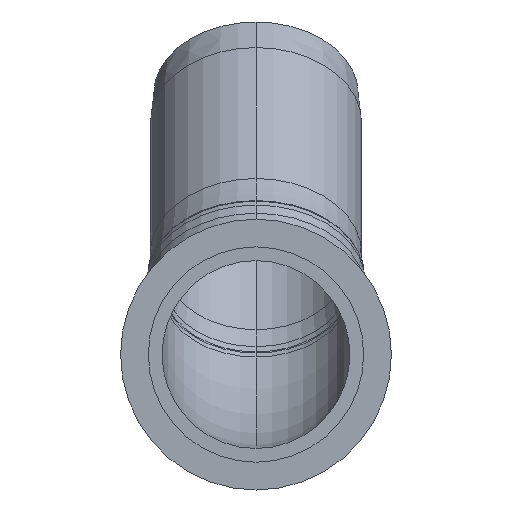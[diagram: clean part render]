
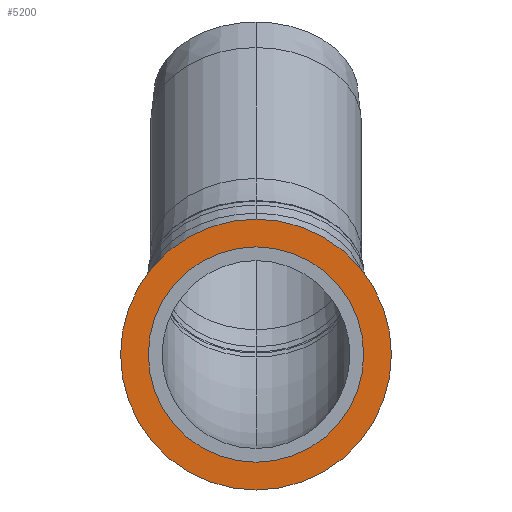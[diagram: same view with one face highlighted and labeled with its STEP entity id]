
A CAD part, front view. The second image highlights one B-rep face of the part: STEP entity #5200.
In plain terms, the highlighted planar face has unit normal (0, -1, 0) as drawn and (-1, 0, 0) by its records, which use the part's own axes.
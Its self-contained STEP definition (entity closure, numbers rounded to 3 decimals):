
#3690=CARTESIAN_POINT('',(47.121,95.829,
0.));
#3700=VERTEX_POINT('',#3690);
#3780=CARTESIAN_POINT('',(47.121,33.829,0.));
#3790=VERTEX_POINT('',#3780);
#3820=CARTESIAN_POINT('',(47.121,64.829,0.));
#3830=DIRECTION('',(1.,0.,0.));
#3840=DIRECTION('',(0.,-1.,0.));
#3850=AXIS2_PLACEMENT_3D('',#3820,#3830,#3840);
#3860=CIRCLE('',#3850,31.);
#3870=EDGE_CURVE('',#3700,#3790,#3860,.T.);
#4590=CARTESIAN_POINT('',(47.121,40.179,0.))
;
#4600=VERTEX_POINT('',#4590);
#4630=CARTESIAN_POINT('',(47.121,64.829,0.));
#4640=DIRECTION('',(1.,0.,0.));
#4650=DIRECTION('',(0.,1.,0.));
#4660=AXIS2_PLACEMENT_3D('',#4630,#4640,#4650);
#4670=CIRCLE('',#4660,24.65);
#4680=CARTESIAN_POINT('',(47.121,89.479,0.)
);
#4690=VERTEX_POINT('',#4680);
#4700=EDGE_CURVE('',#4600,#4690,#4670,.T.);
#5050=CARTESIAN_POINT('',(47.121,94.129,0.)
);
#5060=DIRECTION('',(1.,-0.,0.));
#5070=DIRECTION('',(0.,1.,0.));
#5080=AXIS2_PLACEMENT_3D('',#5050,#5060,#5070);
#5090=PLANE('',#5080);
#5100=EDGE_CURVE('',#4690,#4600,#4670,.T.);
#5110=ORIENTED_EDGE('',*,*,#5100,.T.);
#5120=ORIENTED_EDGE('',*,*,#4700,.T.);
#5130=EDGE_LOOP('',(#5120,#5110));
#5140=FACE_BOUND('',#5130,.T.);
#5150=EDGE_CURVE('',#3790,#3700,#3860,.T.);
#5160=ORIENTED_EDGE('',*,*,#5150,.F.);
#5170=ORIENTED_EDGE('',*,*,#3870,.F.);
#5180=EDGE_LOOP('',(#5170,#5160));
#5190=FACE_OUTER_BOUND('',#5180,.T.);
#5200=ADVANCED_FACE('',(#5140,#5190),#5090,.F.);
